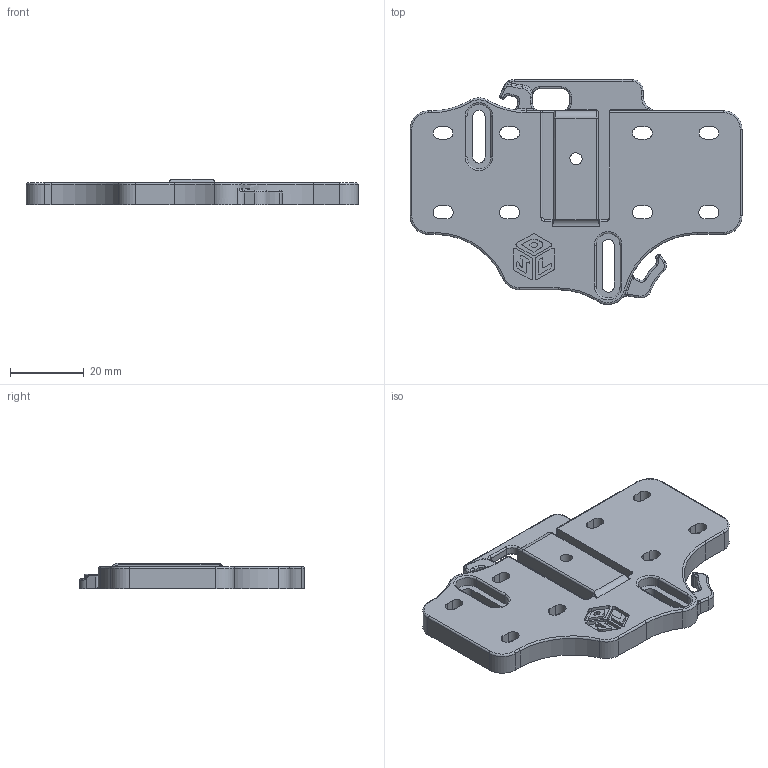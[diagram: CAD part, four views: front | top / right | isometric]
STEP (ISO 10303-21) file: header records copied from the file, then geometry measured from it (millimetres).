
FILE_DESCRIPTION(/* description */ (''),/* implementation_level */ '2;1');
FILE_NAME(/* name */ '/Users/jakeallen/Dropbox/3D Printer Fan Duct Designs/1.) Artillery Sidewinder X1/3D Models/5015 Double Ducts/VOLCANO/Volcano ALL Step Files/Mounting Bracket.step',/* time_stamp */ '2021-03-05T21:08:17-05:00',/* author */ (''),/* organization */ (''),/* preprocessor_version */ 'ST-DEVELOPER v18.1',/* originating_system */ 'Autodesk Translation Framework v9.10.0.1330',/* authorisation */ '');
FILE_SCHEMA (('AUTOMOTIVE_DESIGN { 1 0 10303 214 3 1 1 }'));
Length unit declared in the file: millimetre
Products named in the file (1): Mounting Bracket
Bounding box: 90 x 60.99 x 7 mm (x, y, z)
Volume: 20428.5 mm3; surface area: 11223.8 mm2
Topology: 1 solids, 1 shells, 444 faces, 1119 edges, 681 vertices
Faces by surface type: plane 229, cylinder 128, torus 60, bspline 22, sphere 5
Full cylindrical faces by diameter (mm): 3.3 x1
Entity records: 14813 total; most frequent: CARTESIAN_POINT 4106, DIRECTION 2231, ORIENTED_EDGE 2212, EDGE_CURVE 1106, AXIS2_PLACEMENT_3D 760, LINE 711, VECTOR 711, VERTEX_POINT 681
